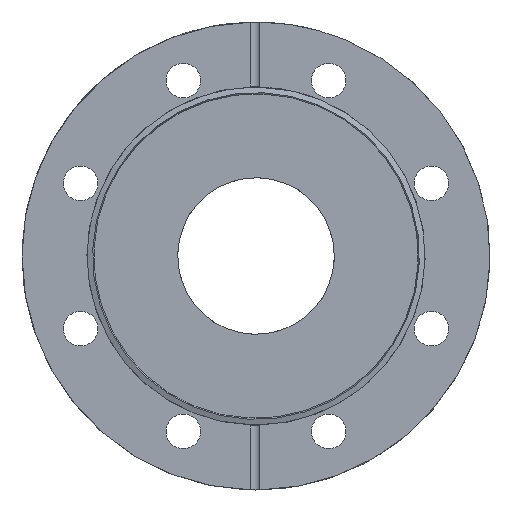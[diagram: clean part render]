
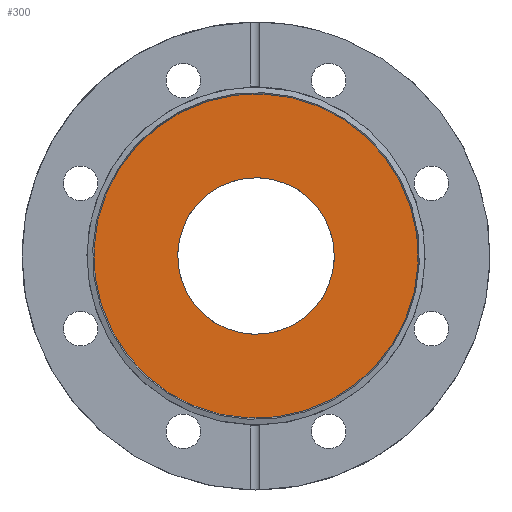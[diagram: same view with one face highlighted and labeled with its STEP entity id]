
A CAD part, left-side view. The second image highlights one B-rep face of the part: STEP entity #300.
In plain terms, the highlighted planar face has unit normal (-1, 0, 0).
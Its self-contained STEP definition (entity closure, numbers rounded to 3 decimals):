
#300 = ADVANCED_FACE( '', ( #587, #588 ), #589, .F. );
#587 = FACE_OUTER_BOUND( '', #878, .T. );
#588 = FACE_BOUND( '', #879, .T. );
#589 = PLANE( '', #880 );
#878 = EDGE_LOOP( '', ( #1179 ) );
#879 = EDGE_LOOP( '', ( #1180 ) );
#880 = AXIS2_PLACEMENT_3D( '', #1181, #1182, #1183 );
#1179 = ORIENTED_EDGE( '', *, *, #1411, .T. );
#1180 = ORIENTED_EDGE( '', *, *, #1376, .F. );
#1181 = CARTESIAN_POINT( '', ( -16.2, 0., 39.335 ) );
#1182 = DIRECTION( '', ( 1., 0., 0. ) );
#1183 = DIRECTION( '', ( 0., 1., 0. ) );
#1376 = EDGE_CURVE( '', #1537, #1537, #1538, .T. );
#1411 = EDGE_CURVE( '', #1592, #1592, #1593, .T. );
#1537 = VERTEX_POINT( '', #1816 );
#1538 = CIRCLE( '', #1817, 19. );
#1592 = VERTEX_POINT( '', #1888 );
#1593 = CIRCLE( '', #1889, 39.335 );
#1816 = CARTESIAN_POINT( '', ( -16.2, 0., 19. ) );
#1817 = AXIS2_PLACEMENT_3D( '', #2038, #2039, #2040 );
#1888 = CARTESIAN_POINT( '', ( -16.2, 0., 39.335 ) );
#1889 = AXIS2_PLACEMENT_3D( '', #2100, #2101, #2102 );
#2038 = CARTESIAN_POINT( '', ( -16.2, 0., 0. ) );
#2039 = DIRECTION( '', ( -1., 0., 0. ) );
#2040 = DIRECTION( '', ( 0., 0., 1. ) );
#2100 = CARTESIAN_POINT( '', ( -16.2, 0., 0. ) );
#2101 = DIRECTION( '', ( -1., 0., 0. ) );
#2102 = DIRECTION( '', ( 0., 0., 1. ) );
